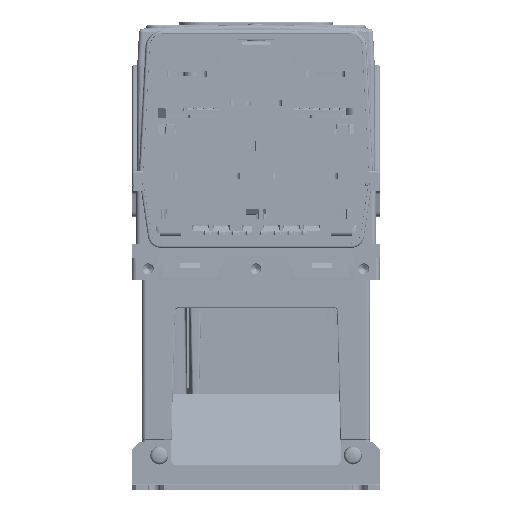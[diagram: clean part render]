
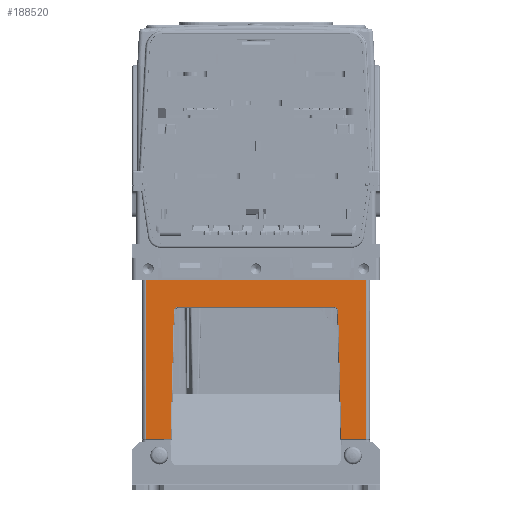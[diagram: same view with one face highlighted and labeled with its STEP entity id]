
A CAD part, front view. The second image highlights one B-rep face of the part: STEP entity #188520.
In plain terms, the highlighted planar face has unit normal (0, -1, -0.009).
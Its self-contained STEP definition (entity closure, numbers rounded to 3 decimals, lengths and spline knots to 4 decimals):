
#34118=DIRECTION('',(-1.,0.,0.));
#34119=VECTOR('',#34118,4.3307);
#34120=CARTESIAN_POINT('',(2.1654,-8.063,
4.1457));
#34121=LINE('',#34120,#34119);
#55824=DIRECTION('',(0.026,0.009,-1.));
#55825=VECTOR('',#55824,2.5345);
#55826=CARTESIAN_POINT('',(1.62,-8.0577,
3.5373));
#55827=LINE('',#55826,#55825);
#55828=CARTESIAN_POINT('',(1.5413,-8.0584,
3.614));
#55829=CARTESIAN_POINT('',(1.543,-8.0584,
3.614));
#55830=CARTESIAN_POINT('',(1.5465,-8.0584,
3.6139));
#55831=CARTESIAN_POINT('',(1.5517,-8.0583,
3.6134));
#55832=CARTESIAN_POINT('',(1.557,-8.0583,
3.6125));
#55833=CARTESIAN_POINT('',(1.5621,-8.0583,
3.6113));
#55834=CARTESIAN_POINT('',(1.5672,-8.0583,
3.6097));
#55835=CARTESIAN_POINT('',(1.5721,-8.0583,
3.6078));
#55836=CARTESIAN_POINT('',(1.5769,-8.0583,
3.6055));
#55837=CARTESIAN_POINT('',(1.5816,-8.0583,
3.603));
#55838=CARTESIAN_POINT('',(1.586,-8.0582,
3.6001));
#55839=CARTESIAN_POINT('',(1.5903,-8.0582,
3.597));
#55840=CARTESIAN_POINT('',(1.5943,-8.0582,
3.5935));
#55841=CARTESIAN_POINT('',(1.5981,-8.0581,
3.5898));
#55842=CARTESIAN_POINT('',(1.6017,-8.0581,
3.5859));
#55843=CARTESIAN_POINT('',(1.6049,-8.0581,
3.5817));
#55844=CARTESIAN_POINT('',(1.6079,-8.058,
3.5773));
#55845=CARTESIAN_POINT('',(1.6106,-8.058,
3.5727));
#55846=CARTESIAN_POINT('',(1.6129,-8.058,
3.568));
#55847=CARTESIAN_POINT('',(1.615,-8.0579,
3.5631));
#55848=CARTESIAN_POINT('',(1.6167,-8.0579,
3.5581));
#55849=CARTESIAN_POINT('',(1.618,-8.0578,
3.553));
#55850=CARTESIAN_POINT('',(1.6191,-8.0578,
3.5478));
#55851=CARTESIAN_POINT('',(1.6197,-8.0577,
3.5425));
#55852=CARTESIAN_POINT('',(1.6199,-8.0577,
3.5391));
#55853=CARTESIAN_POINT('',(1.62,-8.0577,
3.5373));
#55855=DIRECTION('',(1.,0.,0.));
#55856=VECTOR('',#55855,3.0825);
#55857=CARTESIAN_POINT('',(-1.5413,-8.0584,
3.614));
#55858=LINE('',#55857,#55856);
#55859=CARTESIAN_POINT('',(-1.62,-8.0577,
3.5373));
#55860=CARTESIAN_POINT('',(-1.6199,-8.0577,
3.5391));
#55861=CARTESIAN_POINT('',(-1.6197,-8.0577,
3.5426));
#55862=CARTESIAN_POINT('',(-1.6191,-8.0578,
3.5478));
#55863=CARTESIAN_POINT('',(-1.618,-8.0578,
3.553));
#55864=CARTESIAN_POINT('',(-1.6167,-8.0579,
3.5581));
#55865=CARTESIAN_POINT('',(-1.615,-8.0579,
3.5631));
#55866=CARTESIAN_POINT('',(-1.6129,-8.058,
3.568));
#55867=CARTESIAN_POINT('',(-1.6106,-8.058,
3.5728));
#55868=CARTESIAN_POINT('',(-1.6079,-8.058,
3.5773));
#55869=CARTESIAN_POINT('',(-1.6049,-8.0581,
3.5817));
#55870=CARTESIAN_POINT('',(-1.6016,-8.0581,
3.5859));
#55871=CARTESIAN_POINT('',(-1.5981,-8.0581,
3.5898));
#55872=CARTESIAN_POINT('',(-1.5943,-8.0582,
3.5935));
#55873=CARTESIAN_POINT('',(-1.5903,-8.0582,
3.597));
#55874=CARTESIAN_POINT('',(-1.586,-8.0582,
3.6001));
#55875=CARTESIAN_POINT('',(-1.5815,-8.0583,
3.603));
#55876=CARTESIAN_POINT('',(-1.5769,-8.0583,
3.6055));
#55877=CARTESIAN_POINT('',(-1.5721,-8.0583,
3.6078));
#55878=CARTESIAN_POINT('',(-1.5672,-8.0583,
3.6097));
#55879=CARTESIAN_POINT('',(-1.5621,-8.0583,
3.6113));
#55880=CARTESIAN_POINT('',(-1.5569,-8.0583,
3.6125));
#55881=CARTESIAN_POINT('',(-1.5517,-8.0583,
3.6134));
#55882=CARTESIAN_POINT('',(-1.5465,-8.0584,
3.6139));
#55883=CARTESIAN_POINT('',(-1.543,-8.0584,
3.614));
#55884=CARTESIAN_POINT('',(-1.5413,-8.0584,
3.614));
#55886=DIRECTION('',(0.026,-0.009,1.));
#55887=VECTOR('',#55886,2.5345);
#55888=CARTESIAN_POINT('',(-1.6863,-8.0356,
1.0038));
#55889=LINE('',#55888,#55887);
#55890=DIRECTION('',(-1.,0.,0.));
#55891=VECTOR('',#55890,0.479);
#55892=CARTESIAN_POINT('',(-1.6863,-8.0356,
1.0038));
#55893=LINE('',#55892,#55891);
#55894=DIRECTION('',(0.,-0.009,1.));
#55895=VECTOR('',#55894,3.142);
#55896=CARTESIAN_POINT('',(-2.1654,-8.0356,
1.0038));
#55897=LINE('',#55896,#55895);
#55898=DIRECTION('',(0.,0.009,-1.));
#55899=VECTOR('',#55898,3.142);
#55900=CARTESIAN_POINT('',(2.1654,-8.063,
4.1457));
#55901=LINE('',#55900,#55899);
#55902=DIRECTION('',(1.,0.,0.));
#55903=VECTOR('',#55902,0.479);
#55904=CARTESIAN_POINT('',(1.6863,-8.0356,
1.0038));
#55905=LINE('',#55904,#55903);
#57693=CARTESIAN_POINT('',(-2.1654,-8.0356,
1.0038));
#68309=CARTESIAN_POINT('',(2.1654,-8.0356,
1.0038));
#104457=CARTESIAN_POINT('',(2.1654,-8.063,
4.1457));
#104458=CARTESIAN_POINT('',(-2.1654,-8.063,
4.1457));
#104459=VERTEX_POINT('',#104457);
#104460=VERTEX_POINT('',#104458);
#104541=CARTESIAN_POINT('',(1.62,-8.0577,
3.5373));
#104542=CARTESIAN_POINT('',(1.6863,-8.0356,
1.0038));
#104543=VERTEX_POINT('',#104541);
#104544=VERTEX_POINT('',#104542);
#104545=VERTEX_POINT('',#55828);
#104546=CARTESIAN_POINT('',(-1.5413,-8.0584,
3.614));
#104547=VERTEX_POINT('',#104546);
#104548=VERTEX_POINT('',#55859);
#104549=CARTESIAN_POINT('',(-1.6863,-8.0356,
1.0038));
#104550=VERTEX_POINT('',#104549);
#104771=VERTEX_POINT('',#57693);
#104789=VERTEX_POINT('',#68309);
#188494=CARTESIAN_POINT('',(2.2913,-8.063,
4.1457));
#188495=DIRECTION('',(0.,-1.,-0.009));
#188496=DIRECTION('',(1.,0.,0.));
#188497=AXIS2_PLACEMENT_3D('',#188494,#188495,#188496);
#188498=PLANE('',#188497);
#188500=ORIENTED_EDGE('',*,*,#188499,.F.);
#188502=ORIENTED_EDGE('',*,*,#188501,.F.);
#188504=ORIENTED_EDGE('',*,*,#188503,.F.);
#188506=ORIENTED_EDGE('',*,*,#188505,.F.);
#188508=ORIENTED_EDGE('',*,*,#188507,.F.);
#188510=ORIENTED_EDGE('',*,*,#188509,.T.);
#188512=ORIENTED_EDGE('',*,*,#188511,.T.);
#188513=ORIENTED_EDGE('',*,*,#164242,.F.);
#188515=ORIENTED_EDGE('',*,*,#188514,.T.);
#188517=ORIENTED_EDGE('',*,*,#188516,.F.);
#188518=EDGE_LOOP('',(#188500,#188502,#188504,#188506,#188508,#188510,#188512,
#188513,#188515,#188517));
#188519=FACE_OUTER_BOUND('',#188518,.F.);
#188520=ADVANCED_FACE('',(#188519),#188498,.T.);
#55854=B_SPLINE_CURVE_WITH_KNOTS('',3,(#55828,#55829,#55830,#55831,#55832,
#55833,#55834,#55835,#55836,#55837,#55838,#55839,#55840,#55841,#55842,#55843,
#55844,#55845,#55846,#55847,#55848,#55849,#55850,#55851,#55852,#55853),
.UNSPECIFIED.,.F.,.F.,(4,1,1,1,1,1,1,1,1,1,1,1,1,1,1,1,1,1,1,1,1,1,1,4),(0.,
0.0435,0.087,0.1304,0.1739,
0.2174,0.2609,0.3043,0.3478,
0.3913,0.4348,0.4783,0.5217,
0.5652,0.6087,0.6522,0.6957,
0.7391,0.7826,0.8261,0.8696,
0.913,0.9565,1.),.UNSPECIFIED.);
#55885=B_SPLINE_CURVE_WITH_KNOTS('',3,(#55859,#55860,#55861,#55862,#55863,
#55864,#55865,#55866,#55867,#55868,#55869,#55870,#55871,#55872,#55873,#55874,
#55875,#55876,#55877,#55878,#55879,#55880,#55881,#55882,#55883,#55884),
.UNSPECIFIED.,.F.,.F.,(4,1,1,1,1,1,1,1,1,1,1,1,1,1,1,1,1,1,1,1,1,1,1,4),(0.,
0.0435,0.087,0.1304,0.1739,
0.2174,0.2609,0.3043,0.3478,
0.3913,0.4348,0.4783,0.5217,
0.5652,0.6087,0.6522,0.6957,
0.7391,0.7826,0.8261,0.8696,
0.913,0.9565,1.),.UNSPECIFIED.);
#164242=EDGE_CURVE('',#104459,#104460,#34121,.T.);
#188499=EDGE_CURVE('',#104543,#104544,#55827,.T.);
#188501=EDGE_CURVE('',#104545,#104543,#55854,.T.);
#188503=EDGE_CURVE('',#104547,#104545,#55858,.T.);
#188505=EDGE_CURVE('',#104548,#104547,#55885,.T.);
#188507=EDGE_CURVE('',#104550,#104548,#55889,.T.);
#188509=EDGE_CURVE('',#104550,#104771,#55893,.T.);
#188511=EDGE_CURVE('',#104771,#104460,#55897,.T.);
#188514=EDGE_CURVE('',#104459,#104789,#55901,.T.);
#188516=EDGE_CURVE('',#104544,#104789,#55905,.T.);
